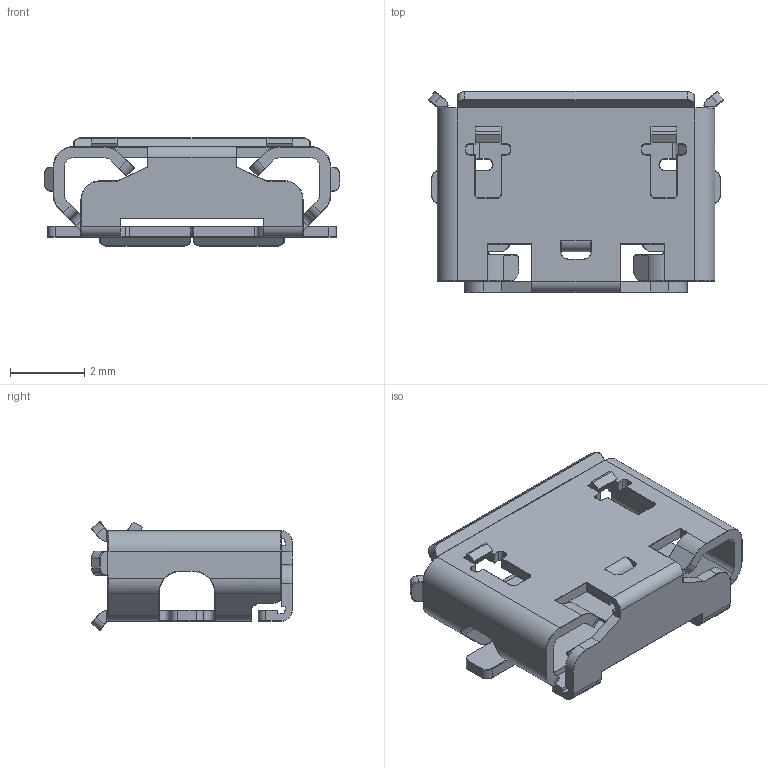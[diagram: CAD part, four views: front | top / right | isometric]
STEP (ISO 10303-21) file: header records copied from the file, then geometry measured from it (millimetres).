
FILE_DESCRIPTION(/* description */ ('STEP AP242 Edition 2','CAx-IF Rec.Pracs.---Representation and Presentation of Product Manufacturing Information (PMI)---4.0---2014-10-13','CAx-IF Rec.Pracs.---3D Tessellated Geometry---0.4---2014-09-14','2;1','CAx-IF Rec.Pracs.---User Defined Attributes---1.5---2016-08-15'),/* implementation_level */ '2;1');
FILE_NAME(/* name */ 'HIRO_Assembly - MicroUSB Port, Raspberry Pi Pico-R3 (4)',/* time_stamp */ '2026-11-04T05:23:20Z',/* author */ (''),/* organization */ (''),/* preprocessor_version */ 'ST-DEVELOPER v20',/* originating_system */ 'ONSHAPE BY PTC INC, 1.223',/* authorisation */ ' ');
FILE_SCHEMA (('AP242_MANAGED_MODEL_BASED_3D_ENGINEERING_MIM_LF { 1 0 10303 442 3 1 4 }'));
Length unit declared in the file: metre
Products named in the file (1): MicroUSB Port, Raspberry Pi Pico-R3
Bounding box: 7.97 x 5.43 x 2.92 mm (x, y, z)
Volume: 25.1 mm3; surface area: 200.2 mm2
Topology: 1 solids, 1 shells, 792 faces, 1906 edges, 1096 vertices
Faces by surface type: cylinder 363, torus 188, plane 175, bspline 50, sphere 16
Entity records: 23598 total; most frequent: CARTESIAN_POINT 5141, DIRECTION 4142, ORIENTED_EDGE 3780, EDGE_CURVE 1890, AXIS2_PLACEMENT_3D 1659, VERTEX_POINT 1096, CIRCLE 896, LINE 824
